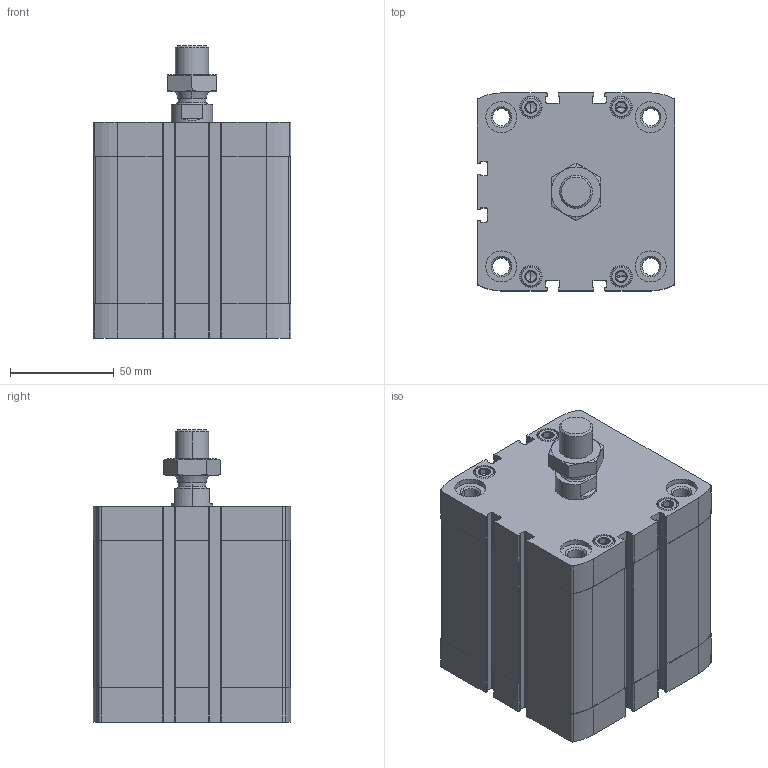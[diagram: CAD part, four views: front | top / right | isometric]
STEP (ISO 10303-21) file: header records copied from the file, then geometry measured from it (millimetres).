
FILE_DESCRIPTION (( 'STEP AP203' ), '1' );
FILE_NAME ('CCN80-50M.STEP', '2017-04-05T20:21:26', ( '' ), ( '' ), 'SwSTEP 2.0', 'SolidWorks 2016', '' );
FILE_SCHEMA (( 'CONFIG_CONTROL_DESIGN' ));
Length unit declared in the file: millimetre
Products named in the file (4): CCN-50_(KS); _DIN-439-B - M16x1.5(F); CCN80-50M; CCN-50---(Z)
Assembly tree (3 placements, depth 2):
  CCN80-50M
    CCN-50---(Z)
    CCN-50_(KS)
    _DIN-439-B - M16x1.5(F)
Bounding box: 95.5 x 95.5 x 140.9 mm (x, y, z)
Volume: 661688.7 mm3; surface area: 130349.4 mm2
Topology: 3 solids, 3 shells, 507 faces, 1284 edges, 814 vertices
Faces by surface type: plane 235, cylinder 188, cone 80, bspline 4
Entity records: 16146 total; most frequent: CARTESIAN_POINT 3307, DIRECTION 2716, ORIENTED_EDGE 2536, EDGE_CURVE 1268, AXIS2_PLACEMENT_3D 1019, VERTEX_POINT 814, LINE 678, VECTOR 678
